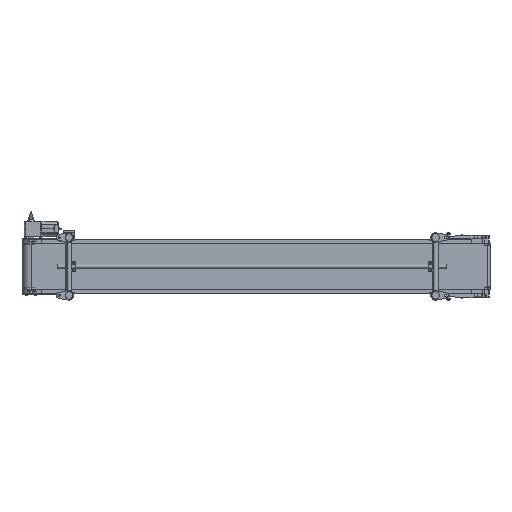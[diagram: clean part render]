
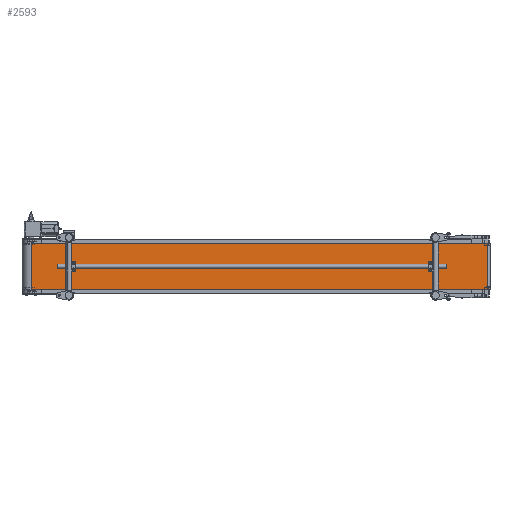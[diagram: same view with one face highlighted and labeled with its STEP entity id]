
A CAD part, front view. The second image highlights one B-rep face of the part: STEP entity #2593.
In plain terms, the highlighted planar face has unit normal (0.03, -1, 0).
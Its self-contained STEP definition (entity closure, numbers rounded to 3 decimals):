
#2593=ADVANCED_FACE('',(#11409),#11408,.F.);
#11408=PLANE('',#23536);
#11409=FACE_OUTER_BOUND('',#23537,.T.);
#23533=CARTESIAN_POINT('',(2994.638,-26.095,-160.));
#23534=DIRECTION('',(-0.03,1.,0.));
#23535=DIRECTION('',(-1.,-0.03,0.));
#23536=AXIS2_PLACEMENT_3D('',#23533,#23534,#23535);
#23537=EDGE_LOOP('',(#32085,#32086,#32087,#32088));
#32085=ORIENTED_EDGE('',*,*,#37787,.T.);
#32086=ORIENTED_EDGE('',*,*,#37794,.F.);
#32087=ORIENTED_EDGE('',*,*,#37781,.F.);
#32088=ORIENTED_EDGE('',*,*,#37795,.T.);
#37781=EDGE_CURVE('',#52218,#52203,#52225,.T.);
#37787=EDGE_CURVE('',#52267,#52259,#52268,.T.);
#37794=EDGE_CURVE('',#52203,#52259,#52315,.T.);
#37795=EDGE_CURVE('',#52218,#52267,#52321,.T.);
#52203=VERTEX_POINT('',#72424);
#52218=VERTEX_POINT('',#72434);
#52225=LINE('',#72439,#72440);
#52259=VERTEX_POINT('',#72460);
#52267=VERTEX_POINT('',#72466);
#52268=LINE('',#72467,#72468);
#52315=LINE('',#72496,#72497);
#52321=LINE('',#72499,#72500);
#72424=CARTESIAN_POINT('',(2984.642,-26.393,150.));
#72434=CARTESIAN_POINT('',(59.243,-113.824,150.));
#72439=CARTESIAN_POINT('',(59.243,-113.824,150.));
#72440=VECTOR('',#72441,2926.705);
#72441=DIRECTION('',(1.,0.03,0.));
#72460=CARTESIAN_POINT('',(2984.642,-26.393,-150.));
#72466=CARTESIAN_POINT('',(59.243,-113.824,-150.));
#72467=CARTESIAN_POINT('',(59.243,-113.824,-150.));
#72468=VECTOR('',#72469,2926.705);
#72469=DIRECTION('',(1.,0.03,0.));
#72496=CARTESIAN_POINT('',(2984.642,-26.393,150.));
#72497=VECTOR('',#72498,300.);
#72498=DIRECTION('',(0.,0.,-1.));
#72499=CARTESIAN_POINT('',(59.243,-113.824,150.));
#72500=VECTOR('',#72501,300.);
#72501=DIRECTION('',(0.,0.,-1.));
